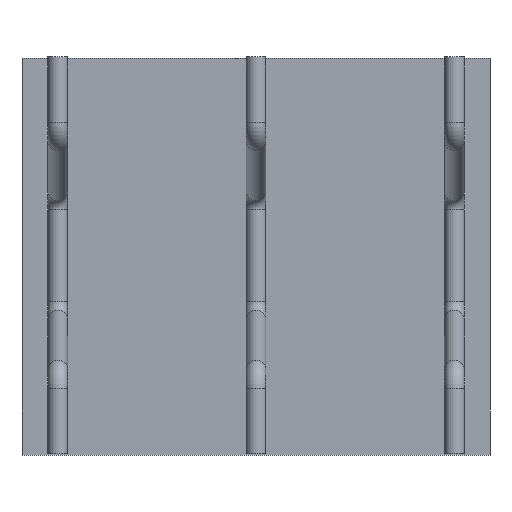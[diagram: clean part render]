
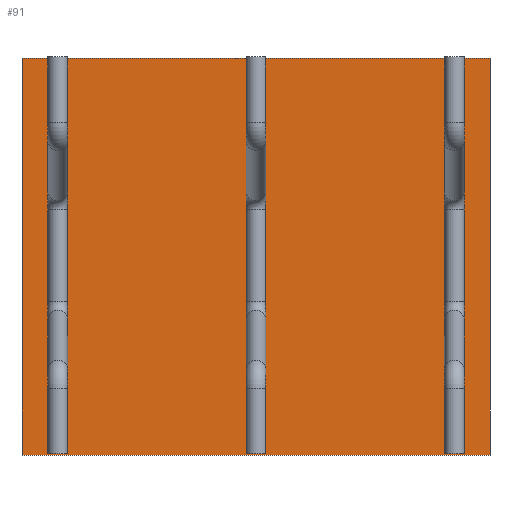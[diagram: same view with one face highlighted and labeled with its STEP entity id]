
A CAD part, top view. The second image highlights one B-rep face of the part: STEP entity #91.
In plain terms, the highlighted planar face has unit normal (0, 0, 1).
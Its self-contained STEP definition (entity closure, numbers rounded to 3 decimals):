
#52=CARTESIAN_POINT('Axis2P3D Location',(0.,0.,0.)) ;
#57=CARTESIAN_POINT('Line Origine',(0.,500.,0.)) ;
#61=CARTESIAN_POINT('Vertex',(590.,500.,0.)) ;
#63=CARTESIAN_POINT('Vertex',(-590.,500.,0.)) ;
#66=CARTESIAN_POINT('Line Origine',(-590.,0.,0.)) ;
#70=CARTESIAN_POINT('Vertex',(-590.,-500.,0.)) ;
#73=CARTESIAN_POINT('Line Origine',(0.,-500.,0.)) ;
#77=CARTESIAN_POINT('Vertex',(590.,-500.,0.)) ;
#80=CARTESIAN_POINT('Line Origine',(590.,0.,0.)) ;
#53=DIRECTION('Axis2P3D Direction',(0.,0.,1.)) ;
#54=DIRECTION('Axis2P3D XDirection',(1.,0.,0.)) ;
#58=DIRECTION('Vector Direction',(1.,0.,0.)) ;
#67=DIRECTION('Vector Direction',(0.,1.,0.)) ;
#74=DIRECTION('Vector Direction',(-1.,0.,0.)) ;
#81=DIRECTION('Vector Direction',(0.,-1.,0.)) ;
#55=AXIS2_PLACEMENT_3D('Plane Axis2P3D',#52,#53,#54) ;
#86=ORIENTED_EDGE('',*,*,#65,.T.) ;
#87=ORIENTED_EDGE('',*,*,#72,.T.) ;
#88=ORIENTED_EDGE('',*,*,#79,.T.) ;
#89=ORIENTED_EDGE('',*,*,#84,.T.) ;
#59=VECTOR('Line Direction',#58,1.) ;
#68=VECTOR('Line Direction',#67,1.) ;
#75=VECTOR('Line Direction',#74,1.) ;
#82=VECTOR('Line Direction',#81,1.) ;
#91=ADVANCED_FACE('Fill.1',(#90),#56,.T.) ;
#65=EDGE_CURVE('',#62,#64,#60,.F.) ;
#72=EDGE_CURVE('',#64,#71,#69,.F.) ;
#79=EDGE_CURVE('',#71,#78,#76,.F.) ;
#84=EDGE_CURVE('',#78,#62,#83,.F.) ;
#85=EDGE_LOOP('',(#86,#87,#88,#89)) ;
#90=FACE_OUTER_BOUND('',#85,.T.) ;
#60=LINE('Line',#57,#59) ;
#69=LINE('Line',#66,#68) ;
#76=LINE('Line',#73,#75) ;
#83=LINE('Line',#80,#82) ;
#56=PLANE('',#55) ;
#62=VERTEX_POINT('',#61) ;
#64=VERTEX_POINT('',#63) ;
#71=VERTEX_POINT('',#70) ;
#78=VERTEX_POINT('',#77) ;
